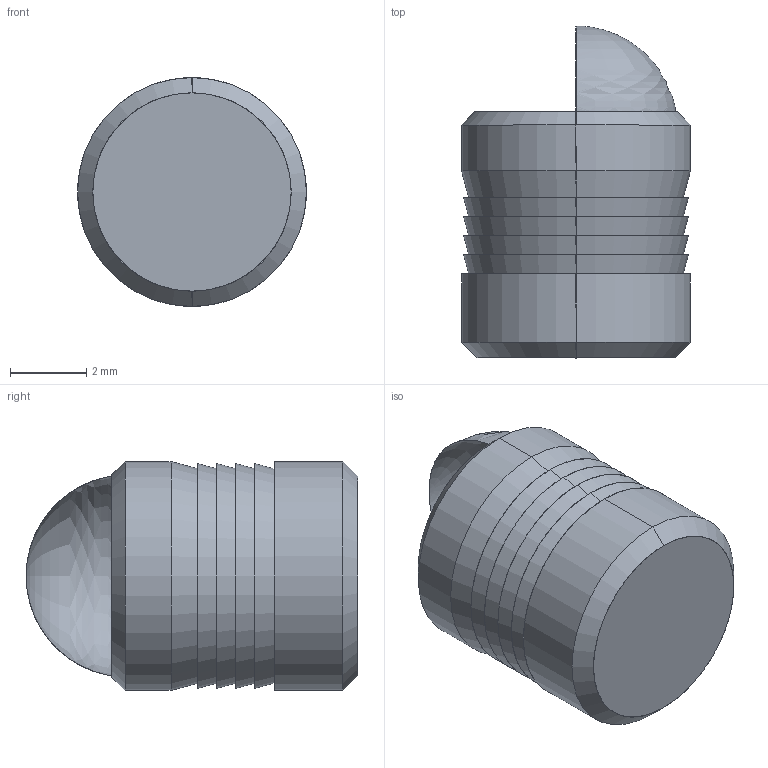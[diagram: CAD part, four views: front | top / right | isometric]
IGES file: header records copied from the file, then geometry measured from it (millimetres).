
Start section: SolidWorks IGES file using analytic representation for surfaces
Global section: file name: C:\Users\IanO\Desktop\P0190_v2\P0190_v2_20230321_IGES\P0190.060-A2-BS.igs; native system: SolidWorks 2019; preprocessor: SolidWorks 2019; author: IanO; date: 231219.161306; units: millimetre
Bounding box: 6 x 8.7 x 6 mm (x, y, z)
Surface area: 291.9 mm2 (no closed solid volume)
Topology: 0 solids, 0 shells, 28 faces, 440 edges, 437 vertices
Faces by surface type: revolution 22, bspline 6
